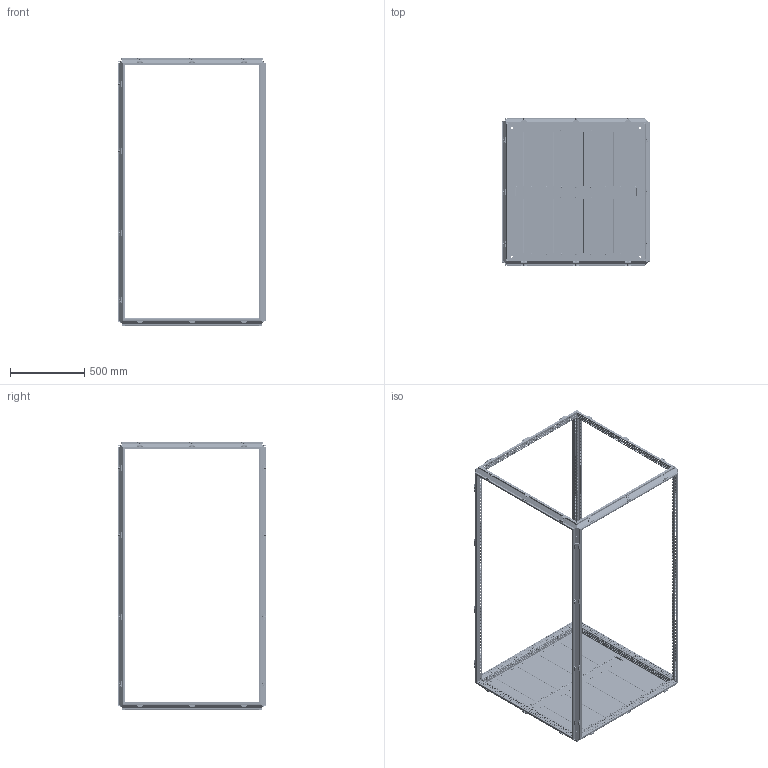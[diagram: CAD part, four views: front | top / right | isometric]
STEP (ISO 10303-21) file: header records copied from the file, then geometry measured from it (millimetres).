
FILE_DESCRIPTION(('STEP AP203'), '1');
FILE_NAME('3000 忺謤僔 捘', '', ('UNSPECIFIED'), ('UNSPECIFIED'), 'C3D Converter', 'C3D Toolkit', '');
FILE_SCHEMA(('CONFIG_CONTROL_DESIGN'));
Length unit declared in the file: millimetre
Products named in the file (14): 3000.180.100.100 СБ; 3000; 3007.175; 3007.75; 3007.200; 3006; 3009.04; 3009.04.01; 3009.04.2; 3009.04.01.2
Assembly tree (192 placements, depth 3):
  3000.180.100.100 СБ
    3000
    (unnamed)  x104
    3007.175  x2
    (unnamed)  x38
    3007.75  x2
    3007.200  x6
    3006
    3009.04  x12
      3009.04.01
      (unnamed)
      (unnamed)
    3009.04.2  x17
      3009.04.01.2
      (unnamed)
      (unnamed)
Bounding box: 997 x 997 x 1798.5 mm (x, y, z)
Volume: 5402198.9 mm3; surface area: 7155781.9 mm2
Topology: 303 solids, 303 shells, 21211 faces, 58999 edges, 38868 vertices
Faces by surface type: plane 14529, cylinder 5194, cone 936, torus 308, bspline 244
Full cylindrical faces by diameter (mm): 4.134 x150, 4.5 x2294, 4.8 x38, 5 x164, 5.8 x46, 6.8 x208, 7 x104, 7.5 x58, 8 x104, 9.2 x58, 10.106 x8, 14 x4
Entity records: 449626 total; most frequent: CARTESIAN_POINT 81983, ORIENTED_EDGE 72134, DIRECTION 68381, EDGE_CURVE 36067, LINE 29651, VECTOR 29651, VERTEX_POINT 25466, EDGE_LOOP 24849
